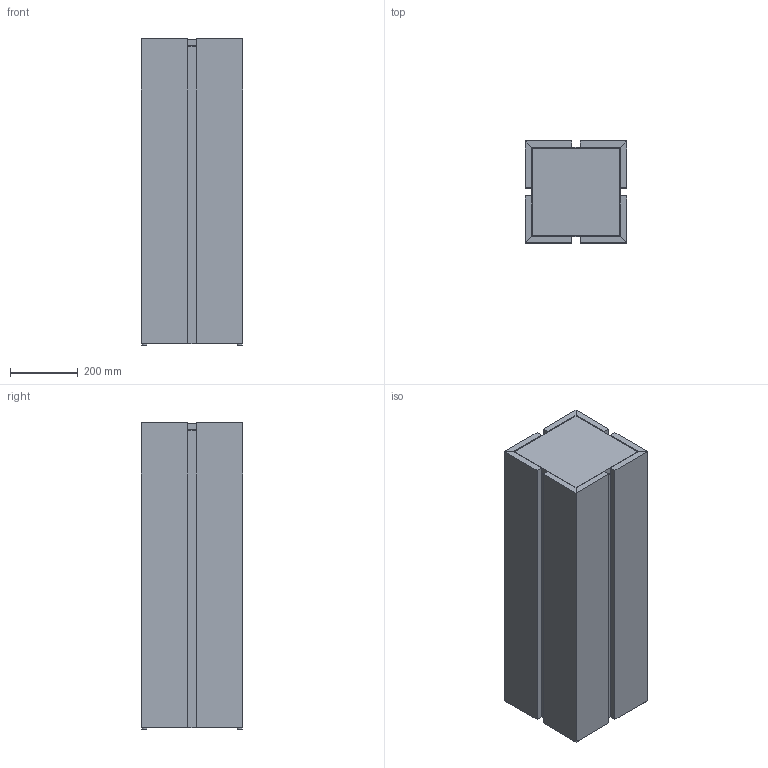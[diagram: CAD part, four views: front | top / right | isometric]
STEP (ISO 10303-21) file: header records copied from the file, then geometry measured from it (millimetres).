
FILE_DESCRIPTION(/* description */ (''),/* implementation_level */ '2;1');
FILE_NAME(/* name */ 'Parcel Pedestal with Storage - H90_3D',/* time_stamp */ '2026-01-28T16:28:22+01:00',/* author */ (''),/* organization */ (''),/* preprocessor_version */ 'ST-DEVELOPER v19.2',/* originating_system */ 'Rhino 8.19',/* authorisation */ '');
FILE_SCHEMA (('CONFIG_CONTROL_DESIGN'));
Length unit declared in the file: millimetre
Products named in the file (2): Document; Asko Plinth_900_3D_02
Bounding box: 300 x 300 x 904 mm (x, y, z)
Volume: 30870492.5 mm3; surface area: 4266098.9 mm2
Topology: 19 solids, 19 shells, 102 faces, 192 edges, 128 vertices
Faces by surface type: plane 86, cylinder 16
Entity records: 2510 total; most frequent: CARTESIAN_POINT 650, ORIENTED_EDGE 384, EDGE_CURVE 192, DIRECTION 174, B_SPLINE_CURVE_WITH_KNOTS 160, AXIS2_PLACEMENT_3D 138, VERTEX_POINT 128, EDGE_LOOP 104
